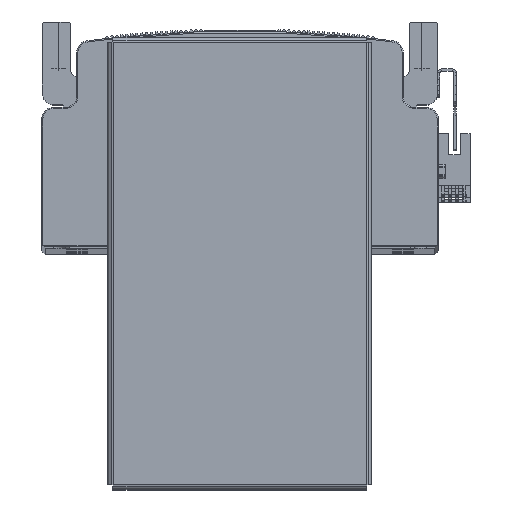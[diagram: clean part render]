
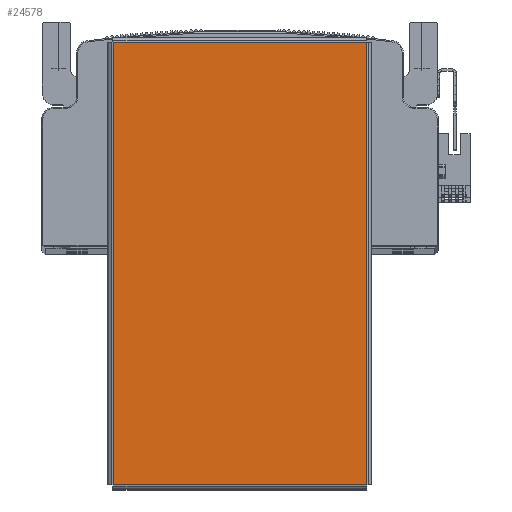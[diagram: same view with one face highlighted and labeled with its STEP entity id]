
A CAD part, top view. The second image highlights one B-rep face of the part: STEP entity #24578.
In plain terms, the highlighted planar face has unit normal (0, 0, 1) as drawn and (0, -1, 0) by its records, which use the part's own axes.
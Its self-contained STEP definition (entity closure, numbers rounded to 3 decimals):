
#19312 = VERTEX_POINT ( 'NONE', #62371 ) ;
#19328 = VERTEX_POINT ( 'NONE', #62524 ) ;
#19348 = VERTEX_POINT ( 'NONE', #62461 ) ;
#20401 = VERTEX_POINT ( 'NONE', #60728 ) ;
#24578 = ADVANCED_FACE ( 'NONE', ( #33569 ), #72006, .F. ) ;
#33569 = FACE_OUTER_BOUND ( 'NONE', #56138, .T. ) ;
#34973 = CARTESIAN_POINT ( 'NONE',  ( 94.763, -1.5, -54.393 ) ) ;
#35000 = DIRECTION ( 'NONE',  ( 0., 0., 1. ) ) ;
#35026 = CARTESIAN_POINT ( 'NONE',  ( -94.793, -1.5, -54.363 ) ) ;
#35044 = DIRECTION ( 'NONE',  ( 1., 0., 0. ) ) ;
#35052 = CARTESIAN_POINT ( 'NONE',  ( -94.763, -1.5, 54.393 ) ) ;
#35075 = DIRECTION ( 'NONE',  ( 0., 0., -1. ) ) ;
#35087 = DIRECTION ( 'NONE',  ( -1., 0., 0. ) ) ;
#35102 = CARTESIAN_POINT ( 'NONE',  ( 94.793, -1.5, 54.363 ) ) ;
#36923 = LINE ( 'NONE', #34973, #36974 ) ;
#36974 = VECTOR ( 'NONE', #35000, 1000. ) ;
#36988 = VECTOR ( 'NONE', #35075, 1000. ) ;
#36990 = LINE ( 'NONE', #35026, #37003 ) ;
#36996 = LINE ( 'NONE', #35102, #37010 ) ;
#37003 = VECTOR ( 'NONE', #35044, 1000. ) ;
#37010 = VECTOR ( 'NONE', #35087, 1000. ) ;
#37020 = LINE ( 'NONE', #35052, #36988 ) ;
#40569 = ORIENTED_EDGE ( 'NONE', *, *, #71537, .T. ) ;
#40570 = ORIENTED_EDGE ( 'NONE', *, *, #71514, .T. ) ;
#40585 = ORIENTED_EDGE ( 'NONE', *, *, #71534, .T. ) ;
#40619 = ORIENTED_EDGE ( 'NONE', *, *, #71529, .T. ) ;
#56138 = EDGE_LOOP ( 'NONE', ( #40585, #40619, #40569, #40570 ) ) ;
#60728 = CARTESIAN_POINT ( 'NONE',  ( -94.763, -1.5, 54.363 ) ) ;
#62371 = CARTESIAN_POINT ( 'NONE',  ( -94.763, -1.5, -54.363 ) ) ;
#62461 = CARTESIAN_POINT ( 'NONE',  ( 94.763, -1.5, 54.363 ) ) ;
#62524 = CARTESIAN_POINT ( 'NONE',  ( 94.763, -1.5, -54.363 ) ) ;
#63205 = AXIS2_PLACEMENT_3D ( 'NONE', #71996, #72000, #71998 ) ;
#71514 = EDGE_CURVE ( 'NONE', #19328, #19348, #36923, .T. ) ;
#71529 = EDGE_CURVE ( 'NONE', #20401, #19312, #37020, .T. ) ;
#71534 = EDGE_CURVE ( 'NONE', #19348, #20401, #36996, .T. ) ;
#71537 = EDGE_CURVE ( 'NONE', #19312, #19328, #36990, .T. ) ;
#71996 = CARTESIAN_POINT ( 'NONE',  ( 0., -1.5, 0. ) ) ;
#71998 = DIRECTION ( 'NONE',  ( 0., 0., 1. ) ) ;
#72000 = DIRECTION ( 'NONE',  ( 0., 1., 0. ) ) ;
#72006 = PLANE ( 'NONE',  #63205 ) ;
